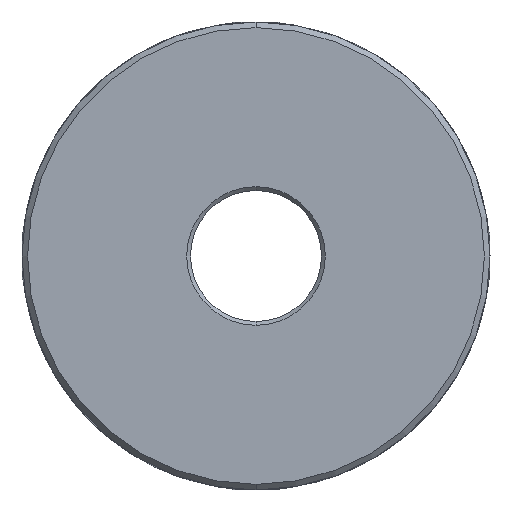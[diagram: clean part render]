
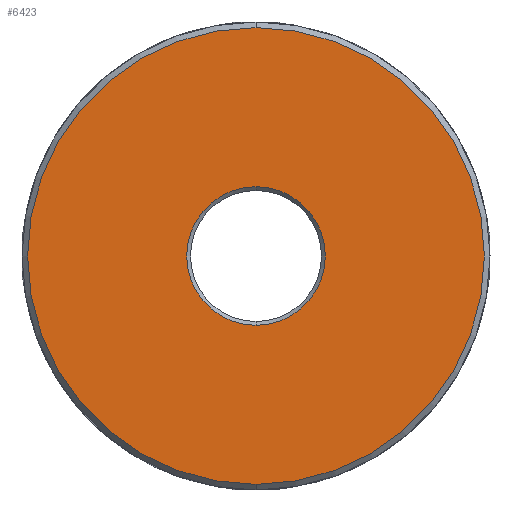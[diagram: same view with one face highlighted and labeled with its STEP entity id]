
A CAD part, front view. The second image highlights one B-rep face of the part: STEP entity #6423.
In plain terms, the highlighted planar face has unit normal (0, -1, 0).
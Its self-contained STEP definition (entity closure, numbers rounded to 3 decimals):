
#155 = DIRECTION ( 'NONE',  ( 0., -1., 0. ) ) ;
#172 = CIRCLE ( 'NONE', #6682, 7.4 ) ;
#181 = FACE_OUTER_BOUND ( 'NONE', #3188, .T. ) ;
#275 = VERTEX_POINT ( 'NONE', #2917 ) ;
#444 = CARTESIAN_POINT ( 'NONE',  ( 0., 0., 0. ) ) ;
#572 = ORIENTED_EDGE ( 'NONE', *, *, #1253, .T. ) ;
#878 = DIRECTION ( 'NONE',  ( 0., 0., 1. ) ) ;
#1036 = ORIENTED_EDGE ( 'NONE', *, *, #6795, .T. ) ;
#1253 = EDGE_CURVE ( 'NONE', #5922, #275, #4245, .T. ) ;
#1513 = CIRCLE ( 'NONE', #5636, 24.4 ) ;
#1826 = ORIENTED_EDGE ( 'NONE', *, *, #7175, .T. ) ;
#2061 = DIRECTION ( 'NONE',  ( 0., 0., 1. ) ) ;
#2068 = EDGE_CURVE ( 'NONE', #6978, #4232, #1513, .T. ) ;
#2231 = DIRECTION ( 'NONE',  ( 0., 0., 1. ) ) ;
#2710 = CIRCLE ( 'NONE', #3605, 24.4 ) ;
#2782 = DIRECTION ( 'NONE',  ( 0., 1., 0. ) ) ;
#2810 = DIRECTION ( 'NONE',  ( 0., 1., 0. ) ) ;
#2917 = CARTESIAN_POINT ( 'NONE',  ( 0., 0., 7.4 ) ) ;
#2950 = AXIS2_PLACEMENT_3D ( 'NONE', #6672, #5427, #878 ) ;
#3082 = ORIENTED_EDGE ( 'NONE', *, *, #2068, .T. ) ;
#3104 = DIRECTION ( 'NONE',  ( 0., 0., 1. ) ) ;
#3188 = EDGE_LOOP ( 'NONE', ( #3082, #1036 ) ) ;
#3605 = AXIS2_PLACEMENT_3D ( 'NONE', #5435, #7283, #2061 ) ;
#3632 = CARTESIAN_POINT ( 'NONE',  ( 0., 0., -7.4 ) ) ;
#3728 = CARTESIAN_POINT ( 'NONE',  ( 0., 0., -24.4 ) ) ;
#4232 = VERTEX_POINT ( 'NONE', #3728 ) ;
#4245 = CIRCLE ( 'NONE', #5150, 7.4 ) ;
#5134 = CARTESIAN_POINT ( 'NONE',  ( 0., 0., 0. ) ) ;
#5150 = AXIS2_PLACEMENT_3D ( 'NONE', #444, #2782, #2231 ) ;
#5164 = DIRECTION ( 'NONE',  ( 0., 0., 1. ) ) ;
#5186 = FACE_BOUND ( 'NONE', #5993, .T. ) ;
#5427 = DIRECTION ( 'NONE',  ( 0., 1., 0. ) ) ;
#5435 = CARTESIAN_POINT ( 'NONE',  ( 0., 0., 0. ) ) ;
#5636 = AXIS2_PLACEMENT_3D ( 'NONE', #5989, #155, #3104 ) ;
#5731 = CARTESIAN_POINT ( 'NONE',  ( 0., 0., 24.4 ) ) ;
#5922 = VERTEX_POINT ( 'NONE', #3632 ) ;
#5989 = CARTESIAN_POINT ( 'NONE',  ( 0., 0., 0. ) ) ;
#5993 = EDGE_LOOP ( 'NONE', ( #572, #1826 ) ) ;
#6423 = ADVANCED_FACE ( 'NONE', ( #5186, #181 ), #6649, .F. ) ;
#6649 = PLANE ( 'NONE',  #2950 ) ;
#6672 = CARTESIAN_POINT ( 'NONE',  ( -50., 0., 32.858 ) ) ;
#6682 = AXIS2_PLACEMENT_3D ( 'NONE', #5134, #2810, #5164 ) ;
#6795 = EDGE_CURVE ( 'NONE', #4232, #6978, #2710, .T. ) ;
#6978 = VERTEX_POINT ( 'NONE', #5731 ) ;
#7175 = EDGE_CURVE ( 'NONE', #275, #5922, #172, .T. ) ;
#7283 = DIRECTION ( 'NONE',  ( 0., -1., 0. ) ) ;
